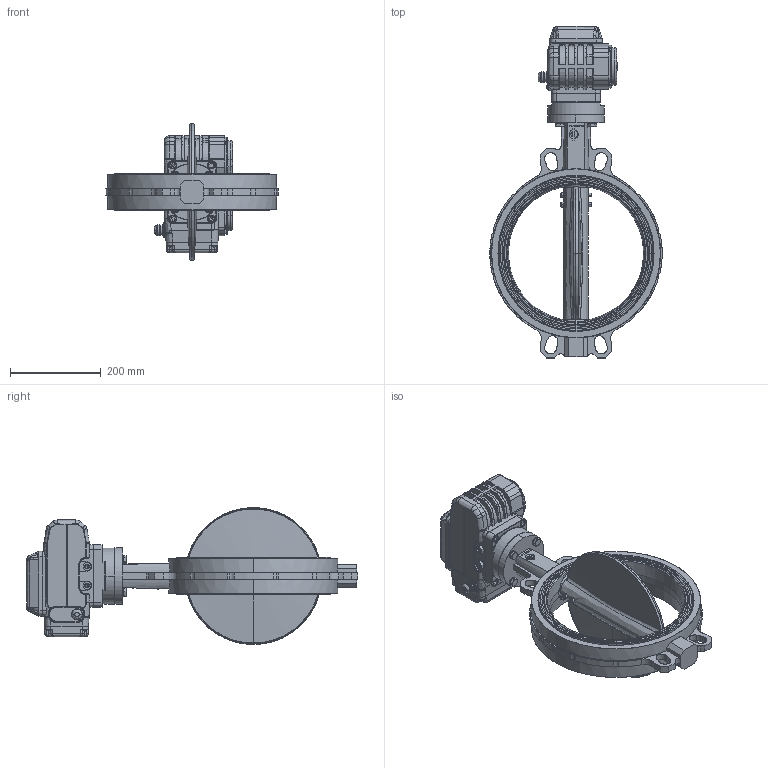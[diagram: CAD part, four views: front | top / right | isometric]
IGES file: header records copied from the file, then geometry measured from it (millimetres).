
Start section: SolidWorks IGES file using analytic representation for surfaces
Global section: file name: H:\BE FABRICATION\BE SERIE\VP\VP SERIE\F072 VPG\plan 3D\VPG-N04\WAFER\DN300\VPG444X-NX4XX0300.igs; native system: SolidWorks 2020; preprocessor: SolidWorks 2020; author: k.gigout; date: 220706.095859; units: millimetre
Bounding box: 380 x 731.69 x 301.48 mm (x, y, z)
Surface area: 762913.7 mm2 (no closed solid volume)
Topology: 0 solids, 0 shells, 1212 faces, 22885 edges, 22858 vertices
Faces by surface type: bspline 696, revolution 516
